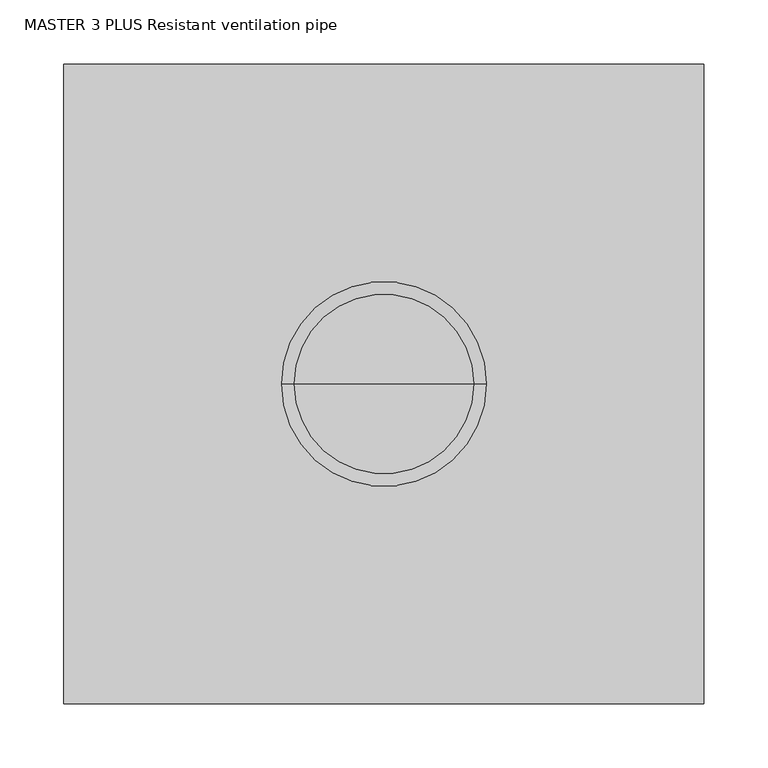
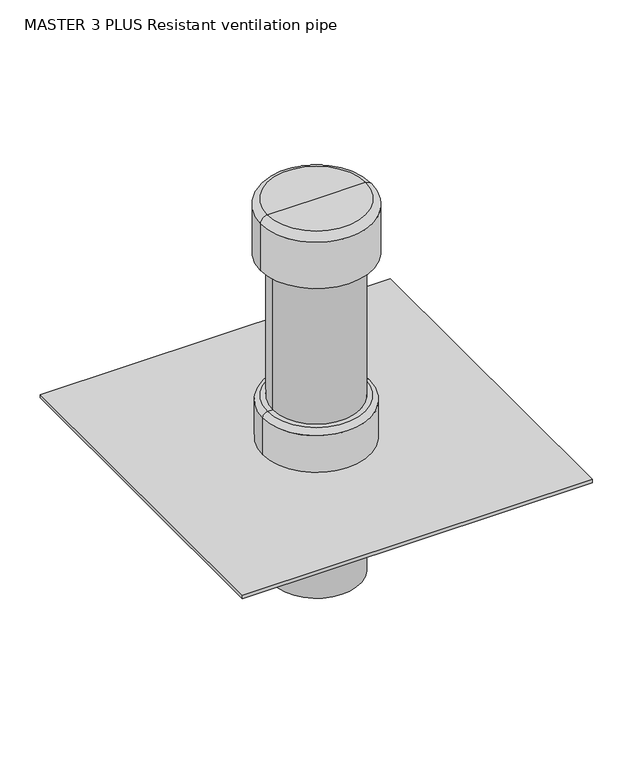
"""IFC4 building model written with IfcOpenShell, lengths in millimetres: valve geometry, MASTER 3 PLUS Resistant ventilation pipe : DN125, Lesp = 200, L3 = 360 mm."""

from ifc_helpers import new_model, si_unit, point, frame, origin, origin_with_axes, origin_2d, place, context, project, spatial, polyline, circle_curve, ellipse_curve, trimmed, segment, composite_curve, outline, extrude, source, transform, mapped, element, save
from ifc_brep_helpers import plane_surface, cylinder_surface, revolved_surface, advanced_brep


def master_3_plus_resistant_ventilation_pipe_1e9836a6(model_context):
    return source(origin(), model_context, "Body", "SolidModel", [
        advanced_brep(
        [(70.0, 0.0, 560.0), (-70.0, 0.0, 560.0), (0.0, 0.0, 560.0), (80.0, 0.0, 480.0), (-80.0, 0.0, 480.0), (-80.0, 0.0, 550.0), (80.0, 0.0, 550.0), (0.0, 0.0, 480.0)],
        [
            (0, 1, circle_curve(frame((0.0, 0.0, 560.0), z_axis=(0.0, 0.0, 1.0), x_axis=(-1.0, 0.0, 0.0)), 70.0)),
            (1, 2),
            (2, 0),
            (1, 0, circle_curve(frame((0.0, 0.0, 560.0), z_axis=(0.0, 0.0, 1.0), x_axis=(-1.0, 0.0, 0.0)), 70.0)),
            (3, 4, circle_curve(frame((0.0, 0.0, 480.0), z_axis=(0.0, 0.0, 1.0), x_axis=(-1.0, 0.0, 0.0)), 80.0)),
            (4, 5),
            (5, 6, circle_curve(frame((0.0, 0.0, 550.0), z_axis=(0.0, 0.0, -1.0), x_axis=(-1.0, 0.0, 0.0)), 80.0)),
            (6, 3),
            (4, 3, circle_curve(frame((0.0, 0.0, 480.0), z_axis=(0.0, 0.0, 1.0), x_axis=(-1.0, 0.0, 0.0)), 80.0)),
            (6, 5, circle_curve(frame((0.0, 0.0, 550.0), z_axis=(0.0, 0.0, -1.0), x_axis=(-1.0, 0.0, 0.0)), 80.0)),
            (7, 4),
            (3, 7),
            (5, 1, circle_curve(frame((-70.0, 0.0, 550.0), z_axis=(0.0, 1.0, 0.0), x_axis=(1.0, 0.0, 0.0)), 10.0)),
            (0, 6, circle_curve(frame((70.0, 0.0, 550.0), z_axis=(0.0, 1.0, 0.0), x_axis=(-1.0, 0.0, 0.0)), 10.0)),
        ],
        [
            plane_surface(frame((0.0, 0.0, 560.0), z_axis=(0.0, 0.0, 1.0), x_axis=(-1.0, 0.0, 0.0))),
            cylinder_surface(frame((0.0, 0.0, 560.0), z_axis=(0.0, 0.0, -1.0), x_axis=(-1.0, 0.0, 0.0)), 80.0),
            plane_surface(frame((0.0, 0.0, 480.0), z_axis=(0.0, 0.0, -1.0), x_axis=(-1.0, 0.0, 0.0))),
            revolved_surface(trimmed(ellipse_curve(frame((-70.0, 0.0, 550.0), z_axis=(0.0, -1.0, 0.0), x_axis=(1.0, 0.0, 0.0)), 10.0, 10.0), [point((-70.0, 0.0, 560.0))], [point((-80.0, 0.0, 550.0))], True, "CARTESIAN"), (0.0, 0.0, 560.0), (0.0, 0.0, -1.0)),
        ],
        [
            (0, [[1, 2, 3]]),
            (0, [[4, -3, -2]]),
            (1, [[5, 6, 7, 8]]),
            (1, [[9, -8, 10, -6]]),
            (2, [[11, -5, 12]]),
            (2, [[-12, -9, -11]]),
            (3, [[-7, 13, -1, 14]]),
            (3, [[-10, -14, -4, -13]]),
        ],
    ),
        extrude(outline(polyline([(250.0, 250.0), (250.0, -250.0), (-250.0, -250.0), (-250.0, 250.0), (250.0, 250.0)]), holes=[composite_curve([segment(trimmed(circle_curve(origin_2d(), 62.5), [point((-62.5, 0.0))], [point((62.5, 0.0))], True, "CARTESIAN"), True, "CONTINUOUS"), segment(trimmed(circle_curve(origin_2d(), 62.5), [point((62.5, 0.0))], [point((-62.5, 0.0))], True, "CARTESIAN"), True, "CONTINUOUS")], self_intersect=False)]), frame((0.0, 0.0, 194.9838403), z_axis=(0.0, 0.0, 1.0), x_axis=(1.0, 0.0, 0.0)), (0.0, 0.0, 1.0), 5.0161597),
        advanced_brep(
        [(77.0, 0.0, 200.0), (-77.0, 0.0, 200.0), (-77.0, 0.0, 255.75), (77.0, 0.0, 255.75), (62.5, 0.0, 200.0), (-62.5, 0.0, 200.0), (62.5, 0.0, 263.0), (-62.5, 0.0, 263.0), (69.75, 0.0, 263.0), (-69.75, 0.0, 263.0)],
        [
            (0, 1, circle_curve(frame((0.0, 0.0, 200.0), z_axis=(0.0, 0.0, 1.0), x_axis=(-1.0, 0.0, 0.0)), 77.0)),
            (1, 2),
            (2, 3, circle_curve(frame((0.0, 0.0, 255.75), z_axis=(0.0, 0.0, -1.0), x_axis=(-1.0, 0.0, 0.0)), 77.0)),
            (3, 0),
            (1, 0, circle_curve(frame((0.0, 0.0, 200.0), z_axis=(0.0, 0.0, 1.0), x_axis=(-1.0, 0.0, 0.0)), 77.0)),
            (3, 2, circle_curve(frame((0.0, 0.0, 255.75), z_axis=(0.0, 0.0, -1.0), x_axis=(-1.0, 0.0, 0.0)), 77.0)),
            (4, 5, circle_curve(frame((0.0, 0.0, 200.0), z_axis=(0.0, 0.0, 1.0), x_axis=(-1.0, 0.0, 0.0)), 62.5)),
            (5, 1),
            (0, 4),
            (5, 4, circle_curve(frame((0.0, 0.0, 200.0), z_axis=(0.0, 0.0, 1.0), x_axis=(-1.0, 0.0, 0.0)), 62.5)),
            (6, 7, circle_curve(frame((0.0, 0.0, 263.0), z_axis=(0.0, 0.0, 1.0), x_axis=(-1.0, 0.0, 0.0)), 62.5)),
            (7, 5),
            (4, 6),
            (7, 6, circle_curve(frame((0.0, 0.0, 263.0), z_axis=(0.0, 0.0, 1.0), x_axis=(-1.0, 0.0, 0.0)), 62.5)),
            (8, 9, circle_curve(frame((0.0, 0.0, 263.0), z_axis=(0.0, 0.0, 1.0), x_axis=(-1.0, 0.0, 0.0)), 69.75)),
            (9, 7),
            (6, 8),
            (9, 8, circle_curve(frame((0.0, 0.0, 263.0), z_axis=(0.0, 0.0, 1.0), x_axis=(-1.0, 0.0, 0.0)), 69.75)),
            (2, 9, circle_curve(frame((-69.75, 0.0, 255.75), z_axis=(0.0, 1.0, 0.0), x_axis=(1.0, 0.0, 0.0)), 7.25)),
            (8, 3, circle_curve(frame((69.75, 0.0, 255.75), z_axis=(0.0, 1.0, 0.0), x_axis=(-1.0, 0.0, 0.0)), 7.25)),
        ],
        [
            cylinder_surface(frame((0.0, 0.0, 263.0), z_axis=(0.0, 0.0, -1.0), x_axis=(-1.0, 0.0, 0.0)), 77.0),
            plane_surface(frame((0.0, 0.0, 200.0), z_axis=(0.0, 0.0, -1.0), x_axis=(-1.0, 0.0, 0.0))),
            revolved_surface(polyline([(-62.5, 0.0, 200.0), (-62.5, 0.0, 263.0)]), (0.0, 0.0, 263.0), (0.0, 0.0, -1.0)),
            plane_surface(frame((0.0, 0.0, 263.0), z_axis=(0.0, 0.0, 1.0), x_axis=(-1.0, 0.0, 0.0))),
            revolved_surface(trimmed(ellipse_curve(frame((-69.75, 0.0, 255.75), z_axis=(0.0, -1.0, 0.0), x_axis=(1.0, 0.0, 0.0)), 7.25, 7.25), [point((-69.75, 0.0, 263.0))], [point((-77.0, 0.0, 255.75))], True, "CARTESIAN"), (0.0, 0.0, 263.0), (0.0, 0.0, -1.0)),
        ],
        [
            (0, [[1, 2, 3, 4]]),
            (0, [[5, -4, 6, -2]]),
            (1, [[7, 8, -1, 9]]),
            (1, [[10, -9, -5, -8]]),
            (2, [[11, 12, -7, 13]]),
            (2, [[14, -13, -10, -12]]),
            (3, [[15, 16, -11, 17]]),
            (3, [[18, -17, -14, -16]]),
            (4, [[-3, 19, -15, 20]]),
            (4, [[-6, -20, -18, -19]]),
        ],
    ),
        extrude(outline(composite_curve([segment(trimmed(circle_curve(origin_2d(), 62.5), [point((62.5, 0.0))], [point((-62.5, 0.0))], False, "CARTESIAN"), True, "CONTINUOUS"), segment(trimmed(circle_curve(origin_2d(), 62.5), [point((-62.5, 0.0))], [point((62.5, 0.0))], False, "CARTESIAN"), True, "CONTINUOUS")], self_intersect=False)), frame((0.0, 0.0, 200.0), z_axis=(0.0, 0.0, 1.0), x_axis=(1.0, 0.0, 0.0)), (0.0, 0.0, 1.0), 332.0),
        extrude(outline(composite_curve([segment(trimmed(circle_curve(origin_2d(), 62.5), [point((-62.5, 0.0))], [point((62.5, 0.0))], False, "CARTESIAN"), True, "CONTINUOUS"), segment(trimmed(circle_curve(origin_2d(), 62.5), [point((62.5, 0.0))], [point((-62.5, 0.0))], False, "CARTESIAN"), True, "CONTINUOUS")], self_intersect=False)), origin_with_axes(), (0.0, 0.0, 1.0), 194.9838403),
    ])


if __name__ == "__main__":
    model = new_model("IFC4")
    model_context = context("Model", 3, world=origin())
    ifc_project = project(units=[si_unit("LENGTHUNIT", "METRE", prefix="MILLI")], contexts=[model_context])
    site = spatial("IfcSite", under=ifc_project)
    building = spatial("IfcBuilding", under=site)
    placement = place(None, origin())
    master_3_plus_resistant_ventilation_pipe_shape = master_3_plus_resistant_ventilation_pipe_1e9836a6(model_context)
    element("IfcValve", 1, ObjectType="MASTER 3 PLUS Resistant ventilation pipe : DN125, Lesp = 200, L3 = 360 mm", at=placement, inside=building, context=model_context, shape_type="MappedRepresentation", body=[
        mapped(master_3_plus_resistant_ventilation_pipe_shape, transform((0.0, 0.0, 0.0), x_axis=(1.0, 0.0, 0.0), y_axis=(0.0, 1.0, 0.0), z_axis=(0.0, 0.0, 1.0))),
    ])
    save(model, "model.ifc")
